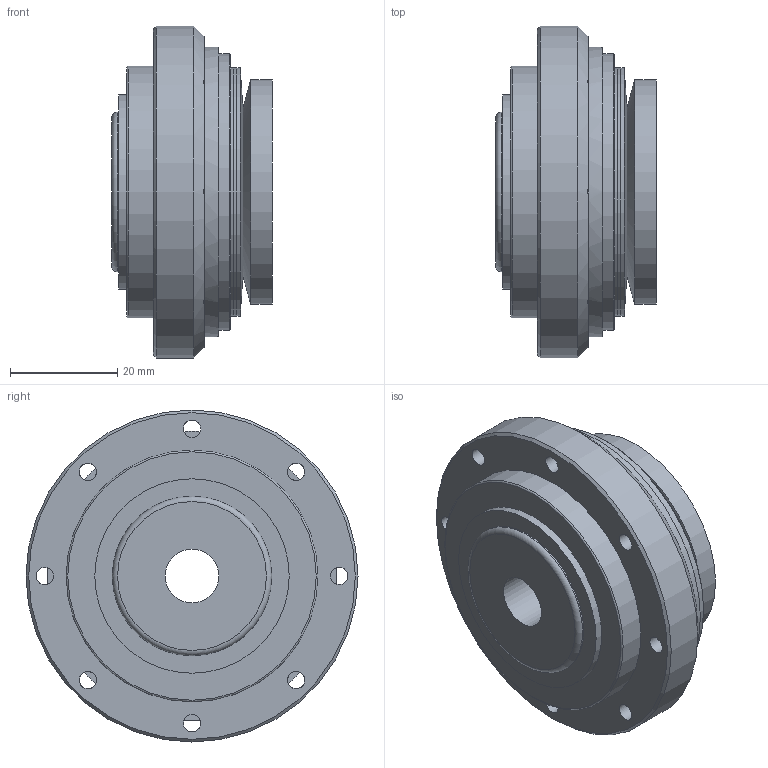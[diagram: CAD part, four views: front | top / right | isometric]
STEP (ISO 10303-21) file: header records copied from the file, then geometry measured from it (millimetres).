
FILE_DESCRIPTION(/* description */ ('Unknown'),/* implementation_level */ '2;1');
FILE_NAME(/* name */ 'SKVA-N 38',/* time_stamp */ '2025-02-12T13:33:07+01:00',/* author */ ('Unknown'),/* organization */ ('Unknown'),/* preprocessor_version */ 'ST-DEVELOPER v18.102',/* originating_system */ 'Solid Edge',/* authorisation */ 'Unknown');
FILE_SCHEMA (('AUTOMOTIVE_DESIGN {1 0 10303 214 3 1 1}'));
Length unit declared in the file: millimetre
Products named in the file (1): SKVA-N  38
Bounding box: 30 x 62 x 62 mm (x, y, z)
Volume: 57980.9 mm3; surface area: 12923.8 mm2
Topology: 1 solids, 1 shells, 51 faces, 131 edges, 77 vertices
Faces by surface type: plane 22, cylinder 16, cone 11, torus 2
Full cylindrical faces by diameter (mm): 3.242 x8, 10 x1, 29.8 x1, 36.321 x1, 42 x1, 47 x1, 51.7 x1, 54 x1, 62 x1
Entity records: 1791 total; most frequent: CARTESIAN_POINT 312, DIRECTION 252, ORIENTED_EDGE 180, AXIS2_PLACEMENT_3D 126, EDGE_LOOP 94, FACE_BOUND 94, EDGE_CURVE 90, CIRCLE 74
